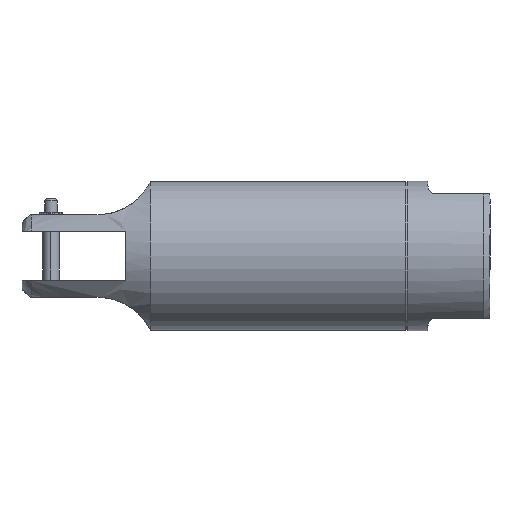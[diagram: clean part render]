
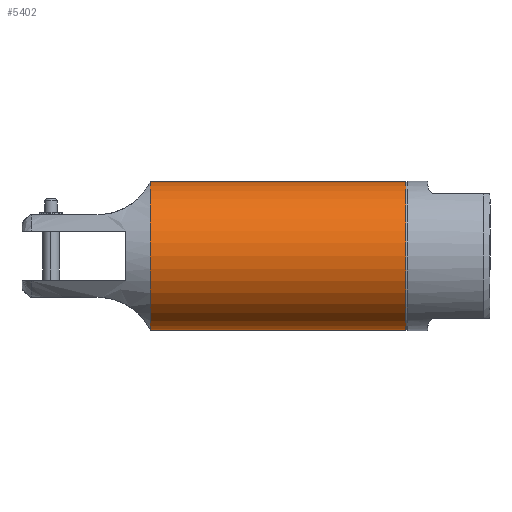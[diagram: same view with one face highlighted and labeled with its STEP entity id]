
A CAD part, front view. The second image highlights one B-rep face of the part: STEP entity #5402.
In plain terms, the highlighted cylindrical face has radius 18 mm (diameter 36 mm), a partial arc.
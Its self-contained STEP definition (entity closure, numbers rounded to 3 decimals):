
#100 = EDGE_LOOP ( 'NONE', ( #1008, #5909, #2109, #854 ) ) ;
#139 = CARTESIAN_POINT ( 'NONE',  ( 128.282, -83.483, -3.634 ) ) ;
#509 = CARTESIAN_POINT ( 'NONE',  ( 189.982, -83.483, 32.366 ) ) ;
#578 = CARTESIAN_POINT ( 'NONE',  ( 128.282, -83.483, 32.366 ) ) ;
#747 = VERTEX_POINT ( 'NONE', #3689 ) ;
#854 = ORIENTED_EDGE ( 'NONE', *, *, #1245, .F. ) ;
#1008 = ORIENTED_EDGE ( 'NONE', *, *, #3830, .T. ) ;
#1032 = DIRECTION ( 'NONE',  ( -1., 0., 0. ) ) ;
#1201 = CARTESIAN_POINT ( 'NONE',  ( 128.282, -83.483, 14.366 ) ) ;
#1245 = EDGE_CURVE ( 'NONE', #3160, #1557, #1508, .T. ) ;
#1355 = VECTOR ( 'NONE', #5458, 1000. ) ;
#1508 = LINE ( 'NONE', #5339, #1355 ) ;
#1557 = VERTEX_POINT ( 'NONE', #4486 ) ;
#1982 = DIRECTION ( 'NONE',  ( -1., 0., 0. ) ) ;
#1987 = EDGE_CURVE ( 'NONE', #1557, #3283, #5784, .T. ) ;
#2109 = ORIENTED_EDGE ( 'NONE', *, *, #1987, .F. ) ;
#2333 = VECTOR ( 'NONE', #4828, 1000. ) ;
#2558 = AXIS2_PLACEMENT_3D ( 'NONE', #3887, #1032, #4381 ) ;
#3066 = EDGE_CURVE ( 'NONE', #747, #3283, #3634, .T. ) ;
#3160 = VERTEX_POINT ( 'NONE', #139 ) ;
#3283 = VERTEX_POINT ( 'NONE', #509 ) ;
#3308 = CIRCLE ( 'NONE', #3719, 18. ) ;
#3430 = AXIS2_PLACEMENT_3D ( 'NONE', #1201, #4069, #5384 ) ;
#3634 = LINE ( 'NONE', #578, #2333 ) ;
#3689 = CARTESIAN_POINT ( 'NONE',  ( 128.282, -83.483, 32.366 ) ) ;
#3719 = AXIS2_PLACEMENT_3D ( 'NONE', #4852, #1982, #5324 ) ;
#3830 = EDGE_CURVE ( 'NONE', #3160, #747, #3308, .T. ) ;
#3887 = CARTESIAN_POINT ( 'NONE',  ( 189.982, -83.483, 14.366 ) ) ;
#4069 = DIRECTION ( 'NONE',  ( 1., 0., 0. ) ) ;
#4133 = CYLINDRICAL_SURFACE ( 'NONE', #3430, 18. ) ;
#4381 = DIRECTION ( 'NONE',  ( 0., 0., 1. ) ) ;
#4486 = CARTESIAN_POINT ( 'NONE',  ( 189.982, -83.483, -3.634 ) ) ;
#4828 = DIRECTION ( 'NONE',  ( 1., 0., 0. ) ) ;
#4852 = CARTESIAN_POINT ( 'NONE',  ( 128.282, -83.483, 14.366 ) ) ;
#5324 = DIRECTION ( 'NONE',  ( 0., 0., 1. ) ) ;
#5339 = CARTESIAN_POINT ( 'NONE',  ( 128.282, -83.483, -3.634 ) ) ;
#5384 = DIRECTION ( 'NONE',  ( 0., 0., -1. ) ) ;
#5402 = ADVANCED_FACE ( 'NONE', ( #5680 ), #4133, .F. ) ;
#5458 = DIRECTION ( 'NONE',  ( 1., 0., 0. ) ) ;
#5680 = FACE_OUTER_BOUND ( 'NONE', #100, .T. ) ;
#5784 = CIRCLE ( 'NONE', #2558, 18. ) ;
#5909 = ORIENTED_EDGE ( 'NONE', *, *, #3066, .T. ) ;
